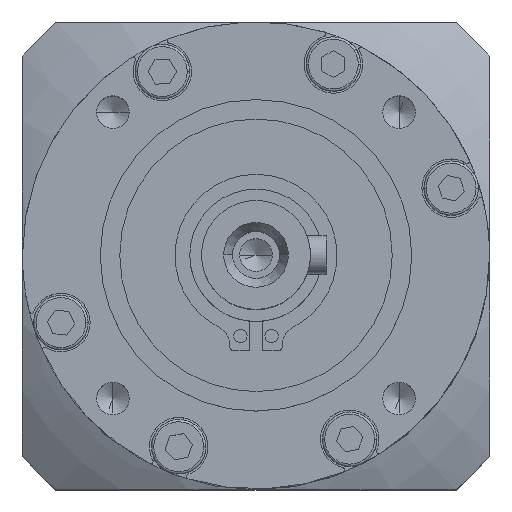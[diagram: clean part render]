
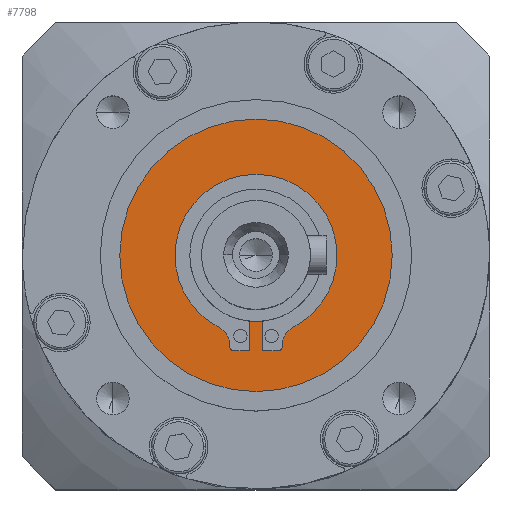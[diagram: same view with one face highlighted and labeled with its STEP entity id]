
A CAD part, top view. The second image highlights one B-rep face of the part: STEP entity #7798.
In plain terms, the highlighted planar face has unit normal (0, 0, 1).
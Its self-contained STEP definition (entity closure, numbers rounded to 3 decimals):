
#130 = ORIENTED_EDGE ( 'NONE', *, *, #6525, .F. ) ;
#435 = AXIS2_PLACEMENT_3D ( 'NONE', #7847, #33379, #11528 ) ;
#619 = CARTESIAN_POINT ( 'NONE',  ( 17.5, 0., -1. ) ) ;
#650 = DIRECTION ( 'NONE',  ( 0., 0., -1. ) ) ;
#693 = CARTESIAN_POINT ( 'NONE',  ( 0., 0., -1. ) ) ;
#1027 = VERTEX_POINT ( 'NONE', #22317 ) ;
#1275 = CARTESIAN_POINT ( 'NONE',  ( 0., 0., -1. ) ) ;
#1288 = ORIENTED_EDGE ( 'NONE', *, *, #6991, .F. ) ;
#1433 = VECTOR ( 'NONE', #41353, 1000. ) ;
#2281 = ORIENTED_EDGE ( 'NONE', *, *, #30492, .F. ) ;
#2843 = LINE ( 'NONE', #20357, #31964 ) ;
#3222 = VERTEX_POINT ( 'NONE', #39312 ) ;
#3361 = CARTESIAN_POINT ( 'NONE',  ( 3.35, 0., -1. ) ) ;
#4069 = CIRCLE ( 'NONE', #34940, 8.5 ) ;
#4949 = DIRECTION ( 'NONE',  ( 1., 0., 0. ) ) ;
#5150 = VERTEX_POINT ( 'NONE', #32559 ) ;
#5153 = ORIENTED_EDGE ( 'NONE', *, *, #8121, .T. ) ;
#5344 = EDGE_CURVE ( 'NONE', #25048, #3222, #2843, .T. ) ;
#5549 = FACE_OUTER_BOUND ( 'NONE', #38428, .T. ) ;
#6151 = DIRECTION ( 'NONE',  ( 0., 0., 1. ) ) ;
#6525 = EDGE_CURVE ( 'NONE', #11804, #43124, #18178, .T. ) ;
#6532 = CARTESIAN_POINT ( 'NONE',  ( -2.85, -11.757, -1. ) ) ;
#6856 = CARTESIAN_POINT ( 'NONE',  ( 0.85, -8.457, -1. ) ) ;
#6991 = EDGE_CURVE ( 'NONE', #37467, #1027, #26131, .T. ) ;
#7798 = ADVANCED_FACE ( 'NONE', ( #5549, #32363 ), #26225, .F. ) ;
#7847 = CARTESIAN_POINT ( 'NONE',  ( 0., 0., -1. ) ) ;
#7962 = EDGE_CURVE ( 'NONE', #43124, #5150, #10677, .T. ) ;
#8121 = EDGE_CURVE ( 'NONE', #35946, #24584, #44837, .T. ) ;
#8915 = DIRECTION ( 'NONE',  ( 0., 0., 1. ) ) ;
#9290 = EDGE_CURVE ( 'NONE', #33107, #12027, #29036, .T. ) ;
#9591 = CARTESIAN_POINT ( 'NONE',  ( 0.85, -12.257, -1. ) ) ;
#9811 = ORIENTED_EDGE ( 'NONE', *, *, #40035, .F. ) ;
#10226 = DIRECTION ( 'NONE',  ( -1., 0., 0. ) ) ;
#10363 = VECTOR ( 'NONE', #24307, 1000. ) ;
#10677 = CIRCLE ( 'NONE', #44284, 2.5 ) ;
#10694 = ORIENTED_EDGE ( 'NONE', *, *, #7962, .F. ) ;
#11528 = DIRECTION ( 'NONE',  ( -1., 0., 0. ) ) ;
#11784 = CARTESIAN_POINT ( 'NONE',  ( 0., 0., -1. ) ) ;
#11804 = VERTEX_POINT ( 'NONE', #25399 ) ;
#11833 = EDGE_CURVE ( 'NONE', #12027, #42031, #16327, .T. ) ;
#12027 = VERTEX_POINT ( 'NONE', #21158 ) ;
#12834 = EDGE_CURVE ( 'NONE', #42031, #17453, #20246, .T. ) ;
#13785 = CARTESIAN_POINT ( 'NONE',  ( -5.85, -11.497, -1. ) ) ;
#14860 = CIRCLE ( 'NONE', #35557, 0.5 ) ;
#15182 = AXIS2_PLACEMENT_3D ( 'NONE', #11784, #37282, #15434 ) ;
#15369 = DIRECTION ( 'NONE',  ( 0., 0., -1. ) ) ;
#15372 = CARTESIAN_POINT ( 'NONE',  ( 0., -12.257, -1. ) ) ;
#15434 = DIRECTION ( 'NONE',  ( -1., 0., 0. ) ) ;
#15586 = ORIENTED_EDGE ( 'NONE', *, *, #23810, .T. ) ;
#15587 = ORIENTED_EDGE ( 'NONE', *, *, #37083, .F. ) ;
#15697 = DIRECTION ( 'NONE',  ( 1., 0., 0. ) ) ;
#16243 = CARTESIAN_POINT ( 'NONE',  ( -2.85, -12.257, -1. ) ) ;
#16327 = CIRCLE ( 'NONE', #31944, 2.5 ) ;
#17069 = CARTESIAN_POINT ( 'NONE',  ( -0.85, -8.457, -1. ) ) ;
#17453 = VERTEX_POINT ( 'NONE', #26566 ) ;
#17473 = DIRECTION ( 'NONE',  ( -1., 0., 0. ) ) ;
#17809 = AXIS2_PLACEMENT_3D ( 'NONE', #28044, #6151, #31696 ) ;
#18178 = CIRCLE ( 'NONE', #38211, 10.4 ) ;
#19325 = VECTOR ( 'NONE', #46959, 1000. ) ;
#19521 = DIRECTION ( 'NONE',  ( 0., 0., 1. ) ) ;
#19759 = ORIENTED_EDGE ( 'NONE', *, *, #11833, .F. ) ;
#20246 = CIRCLE ( 'NONE', #435, 10.4 ) ;
#20357 = CARTESIAN_POINT ( 'NONE',  ( 0., -12.257, -1. ) ) ;
#20766 = CARTESIAN_POINT ( 'NONE',  ( -17.5, 0., -1. ) ) ;
#21054 = ORIENTED_EDGE ( 'NONE', *, *, #5344, .F. ) ;
#21158 = CARTESIAN_POINT ( 'NONE',  ( 3.35, -11.497, -1. ) ) ;
#21182 = DIRECTION ( 'NONE',  ( 0., 0., 1. ) ) ;
#21421 = AXIS2_PLACEMENT_3D ( 'NONE', #1275, #26823, #4949 ) ;
#21646 = ORIENTED_EDGE ( 'NONE', *, *, #31539, .F. ) ;
#21972 = LINE ( 'NONE', #44978, #1433 ) ;
#22317 = CARTESIAN_POINT ( 'NONE',  ( 2.85, -12.257, -1. ) ) ;
#22505 = CARTESIAN_POINT ( 'NONE',  ( 5.85, -11.497, -1. ) ) ;
#22750 = VERTEX_POINT ( 'NONE', #30372 ) ;
#22965 = ORIENTED_EDGE ( 'NONE', *, *, #44622, .F. ) ;
#23137 = VECTOR ( 'NONE', #29127, 1000. ) ;
#23810 = EDGE_CURVE ( 'NONE', #24584, #35946, #39220, .T. ) ;
#24307 = DIRECTION ( 'NONE',  ( 0., -1., 0. ) ) ;
#24584 = VERTEX_POINT ( 'NONE', #619 ) ;
#25048 = VERTEX_POINT ( 'NONE', #16243 ) ;
#25399 = CARTESIAN_POINT ( 'NONE',  ( -10.4, 0., -1. ) ) ;
#25432 = CARTESIAN_POINT ( 'NONE',  ( -0.85, 0., -1. ) ) ;
#26068 = VERTEX_POINT ( 'NONE', #6856 ) ;
#26131 = LINE ( 'NONE', #15372, #44313 ) ;
#26185 = DIRECTION ( 'NONE',  ( -1., 0., 0. ) ) ;
#26225 = PLANE ( 'NONE',  #29685 ) ;
#26566 = CARTESIAN_POINT ( 'NONE',  ( 10.4, 0., -1. ) ) ;
#26700 = ORIENTED_EDGE ( 'NONE', *, *, #31687, .F. ) ;
#26823 = DIRECTION ( 'NONE',  ( 0., 0., 1. ) ) ;
#28044 = CARTESIAN_POINT ( 'NONE',  ( 0., 0., -1. ) ) ;
#28234 = CARTESIAN_POINT ( 'NONE',  ( 4.716, -9.269, -1. ) ) ;
#29036 = LINE ( 'NONE', #3361, #19325 ) ;
#29127 = DIRECTION ( 'NONE',  ( 0., 1., 0. ) ) ;
#29210 = CARTESIAN_POINT ( 'NONE',  ( -4.716, -9.269, -1. ) ) ;
#29685 = AXIS2_PLACEMENT_3D ( 'NONE', #693, #15369, #40888 ) ;
#30372 = CARTESIAN_POINT ( 'NONE',  ( -3.35, -11.757, -1. ) ) ;
#30492 = EDGE_CURVE ( 'NONE', #17453, #11804, #33485, .T. ) ;
#30763 = CARTESIAN_POINT ( 'NONE',  ( 0., 0., -1. ) ) ;
#30908 = ORIENTED_EDGE ( 'NONE', *, *, #9290, .F. ) ;
#31539 = EDGE_CURVE ( 'NONE', #3222, #46080, #32838, .T. ) ;
#31687 = EDGE_CURVE ( 'NONE', #5150, #22750, #21972, .T. ) ;
#31696 = DIRECTION ( 'NONE',  ( 1., 0., 0. ) ) ;
#31903 = ORIENTED_EDGE ( 'NONE', *, *, #12834, .F. ) ;
#31944 = AXIS2_PLACEMENT_3D ( 'NONE', #22505, #650, #26185 ) ;
#31964 = VECTOR ( 'NONE', #45817, 1000. ) ;
#32063 = DIRECTION ( 'NONE',  ( 0., 0., 1. ) ) ;
#32363 = FACE_BOUND ( 'NONE', #41820, .T. ) ;
#32559 = CARTESIAN_POINT ( 'NONE',  ( -3.35, -11.497, -1. ) ) ;
#32838 = LINE ( 'NONE', #25432, #23137 ) ;
#33107 = VERTEX_POINT ( 'NONE', #36195 ) ;
#33379 = DIRECTION ( 'NONE',  ( 0., 0., 1. ) ) ;
#33485 = CIRCLE ( 'NONE', #15182, 10.4 ) ;
#34449 = DIRECTION ( 'NONE',  ( -1., 0., 0. ) ) ;
#34940 = AXIS2_PLACEMENT_3D ( 'NONE', #43010, #21182, #46633 ) ;
#35159 = CIRCLE ( 'NONE', #37779, 0.5 ) ;
#35557 = AXIS2_PLACEMENT_3D ( 'NONE', #41351, #19521, #44975 ) ;
#35946 = VERTEX_POINT ( 'NONE', #20766 ) ;
#36195 = CARTESIAN_POINT ( 'NONE',  ( 3.35, -11.757, -1. ) ) ;
#37083 = EDGE_CURVE ( 'NONE', #26068, #37467, #37138, .T. ) ;
#37138 = LINE ( 'NONE', #46075, #10363 ) ;
#37282 = DIRECTION ( 'NONE',  ( 0., 0., 1. ) ) ;
#37467 = VERTEX_POINT ( 'NONE', #9591 ) ;
#37779 = AXIS2_PLACEMENT_3D ( 'NONE', #6532, #32063, #10226 ) ;
#38211 = AXIS2_PLACEMENT_3D ( 'NONE', #30763, #8915, #34449 ) ;
#38428 = EDGE_LOOP ( 'NONE', ( #15586, #5153 ) ) ;
#39220 = CIRCLE ( 'NONE', #17809, 17.5 ) ;
#39282 = DIRECTION ( 'NONE',  ( 0., 0., -1. ) ) ;
#39312 = CARTESIAN_POINT ( 'NONE',  ( -0.85, -12.257, -1. ) ) ;
#40035 = EDGE_CURVE ( 'NONE', #22750, #25048, #35159, .T. ) ;
#40888 = DIRECTION ( 'NONE',  ( -1., 0., 0. ) ) ;
#41351 = CARTESIAN_POINT ( 'NONE',  ( 2.85, -11.757, -1. ) ) ;
#41353 = DIRECTION ( 'NONE',  ( 0., -1., 0. ) ) ;
#41820 = EDGE_LOOP ( 'NONE', ( #9811, #26700, #10694, #130, #2281, #31903, #19759, #30908, #22965, #1288, #15587, #43445, #21646, #21054 ) ) ;
#42031 = VERTEX_POINT ( 'NONE', #28234 ) ;
#43010 = CARTESIAN_POINT ( 'NONE',  ( 0., 0., -1. ) ) ;
#43124 = VERTEX_POINT ( 'NONE', #29210 ) ;
#43445 = ORIENTED_EDGE ( 'NONE', *, *, #43875, .F. ) ;
#43875 = EDGE_CURVE ( 'NONE', #46080, #26068, #4069, .T. ) ;
#44284 = AXIS2_PLACEMENT_3D ( 'NONE', #13785, #39282, #17473 ) ;
#44313 = VECTOR ( 'NONE', #15697, 1000. ) ;
#44622 = EDGE_CURVE ( 'NONE', #1027, #33107, #14860, .T. ) ;
#44837 = CIRCLE ( 'NONE', #21421, 17.5 ) ;
#44975 = DIRECTION ( 'NONE',  ( -1., 0., 0. ) ) ;
#44978 = CARTESIAN_POINT ( 'NONE',  ( -3.35, 0., -1. ) ) ;
#45817 = DIRECTION ( 'NONE',  ( 1., 0., 0. ) ) ;
#46075 = CARTESIAN_POINT ( 'NONE',  ( 0.85, 0., -1. ) ) ;
#46080 = VERTEX_POINT ( 'NONE', #17069 ) ;
#46633 = DIRECTION ( 'NONE',  ( -1., 0., 0. ) ) ;
#46959 = DIRECTION ( 'NONE',  ( 0., 1., 0. ) ) ;
